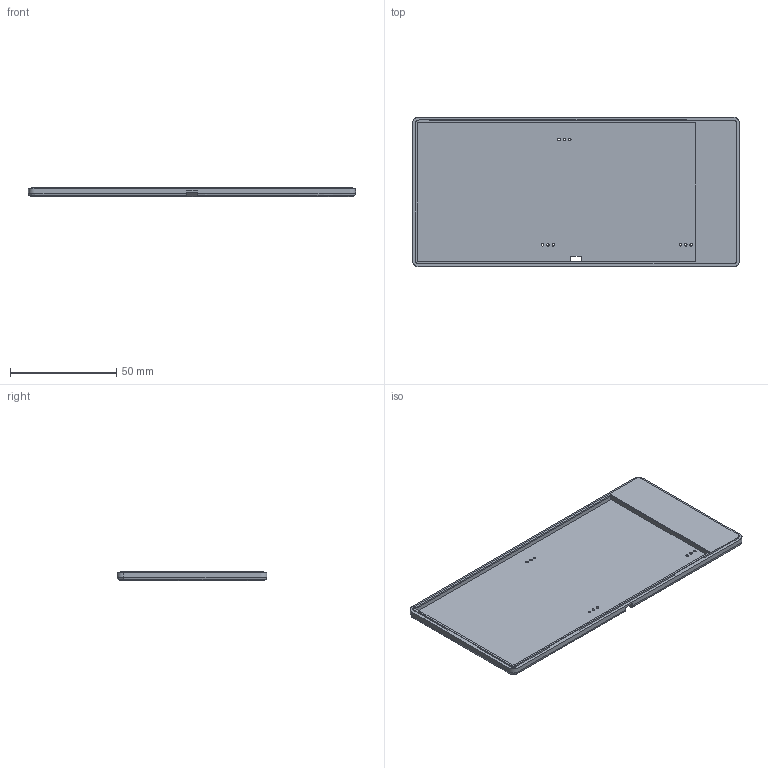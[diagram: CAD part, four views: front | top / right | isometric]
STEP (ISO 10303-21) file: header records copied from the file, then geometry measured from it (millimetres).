
FILE_DESCRIPTION(/* description */ (''),/* implementation_level */ '2;1');
FILE_NAME(/* name */ 'leet_sequencer_display_base',/* time_stamp */ '2020-11-13T20:59:49+01:00',/* author */ (''),/* organization */ (''),/* preprocessor_version */ 'ST-DEVELOPER v10',/* originating_system */ '',/* authorisation */ '');
FILE_SCHEMA (('CONFIG_CONTROL_DESIGN'));
Length unit declared in the file: millimetre
Products named in the file (1): 1
Bounding box: 154 x 70.6 x 4.7 mm (x, y, z)
Volume: 26845.8 mm3; surface area: 26104.5 mm2
Topology: 1 solids, 1 shells, 134 faces, 381 edges, 248 vertices
Faces by surface type: bspline 73, plane 61
Entity records: 10005 total; most frequent: CARTESIAN_POINT 7579, ORIENTED_EDGE 762, EDGE_CURVE 381, B_SPLINE_CURVE_WITH_KNOTS 294, VERTEX_POINT 248, EDGE_LOOP 153, ADVANCED_FACE 134, FACE_OUTER_BOUND 134
